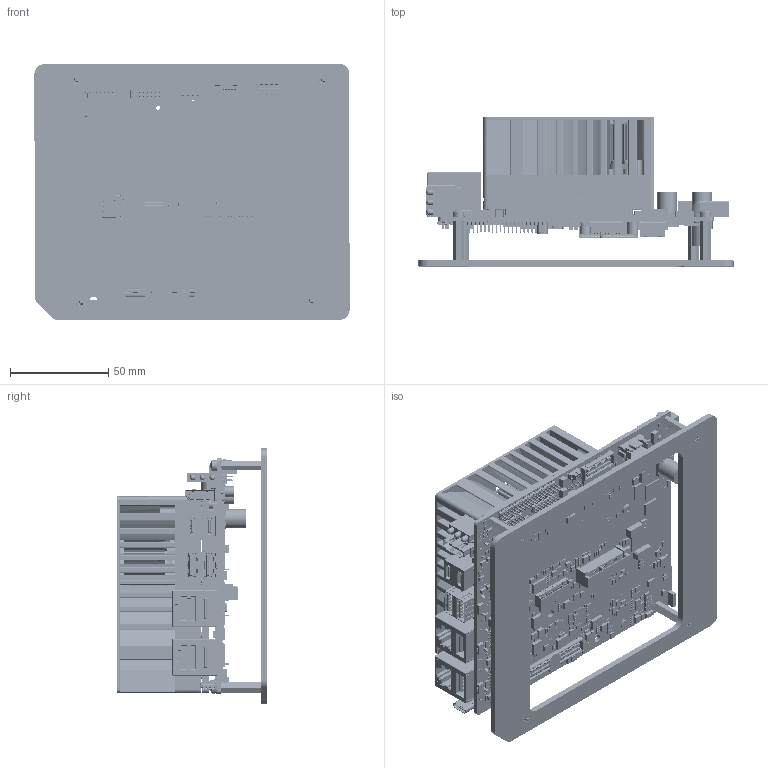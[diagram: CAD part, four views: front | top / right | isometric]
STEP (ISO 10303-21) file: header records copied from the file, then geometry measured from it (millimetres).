
FILE_DESCRIPTION((''),'2;1');
FILE_NAME('00_ASM','2026-05-07T17:36:27',('Lenovo'),(''),'CREO PARAMETRIC BY PTC INC, 2022073','CREO PARAMETRIC BY PTC INC, 2022073','');
FILE_SCHEMA(('AUTOMOTIVE_DESIGN { 1 0 10303 214 1 1 1 1 }'));
Products named in the file (205): BOARD; R1206; R0402; C0402; ACW4532B-2-510TF; NUP2105L; KLXES15AAA1; BTC-641-BN01; AT24C02D-MAHM-T; SI7149ADP-T1-GE3; AONR21321; 74LVC1G32SE-7; 74AUP1G08SE-7; 74LV1T08GWH; 74LVC1G17GW; TPS3840DL20DBVR; NCA1051N-DSPR; SDCW2012U-2-900TF; SDCW2012H-2-900TF; BDFN10A054U; XAL1580-102MEB; 7443551130; W25X10CLSNIG; NAE12S20-C; LT8390EFE; NAM12S06-D; ASM1806; PXTD010M227E040STU; BDFN2C051U2; BSD3C051L2; BDFN2C051V40; LBZT52C3V3T1G; SMBJ12CA; RB521S30T1G; HDR200M-1X4; NTS4001NT1G; PMV32UP; MMBT3904LT1; FDV301N; R0805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
Assembly tree (1577 placements, depth 10):
  00_ASM
    0002_ASM
      Y-C28-V1-0_0811A1_ASM
        Y-C28-V1-0_0811A1_1_ASM
          BOARD
          COMPONENTS_ASM
            R1206  x8
            R0402  x607
            C0402  x331
            ACW4532B-2-510TF  x4
            NUP2105L  x4
            KLXES15AAA1  x70
            BTC-641-BN01
            AT24C02D-MAHM-T
            SI7149ADP-T1-GE3
            AONR21321
            74LVC1G32SE-7
            74AUP1G08SE-7
            74LV1T08GWH
            74LVC1G17GW
            TPS3840DL20DBVR
            NCA1051N-DSPR  x4
            SDCW2012U-2-900TF  x11
            SDCW2012H-2-900TF  x4
            BDFN10A054U  x3
            XAL1580-102MEB
            7443551130
            W25X10CLSNIG
            NAE12S20-C  x2
            LT8390EFE
            NAM12S06-D
            ASM1806
            PXTD010M227E040STU  x2
            BDFN2C051U2  x26
            BSD3C051L2  x8
            BDFN2C051V40
            LBZT52C3V3T1G
            SMBJ12CA
            RB521S30T1G
            HDR200M-1X4
            NTS4001NT1G  x8
            PMV32UP  x2
            MMBT3904LT1
            FDV301N
            R0805  x16
            HD3SS3220IRNHR  x2
            SGM2576YN5G  x5
            NCP380HSNAJAAT1G  x2
            EFM8SB10F2G-A-QFN20
            SN74LVC1G07DBVR
            MX25L512EMI-10G
            UPD720201K8-711-BAC-A
            PA2512FKF7T0R001E
            WSL36376L000FEA  x2
            NCA9306-DTSHR  x2
            NAE12S03-B  x6
            TP40  x19
            T521D107M025ATE040  x10
            SD05  x4
            C0603  x60
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Bounding box: 160.1 x 75.78 x 130.12 mm (x, y, z)
Volume: 283321.2 mm3; surface area: 329282.3 mm2
Topology: 1559 solids, 1629 shells, 38177 faces, 102644 edges, 67653 vertices
Faces by surface type: plane 28968, cylinder 7636, extrusion 427, cone 350, bspline 309, torus 254, sphere 233
Entity records: 1056203 total; most frequent: CARTESIAN_POINT 193375, ORIENTED_EDGE 148956, DIRECTION 143870, EDGE_CURVE 74738, VECTOR 58098, LINE 57744, VERTEX_POINT 49288, AXIS2_PLACEMENT_3D 42886
